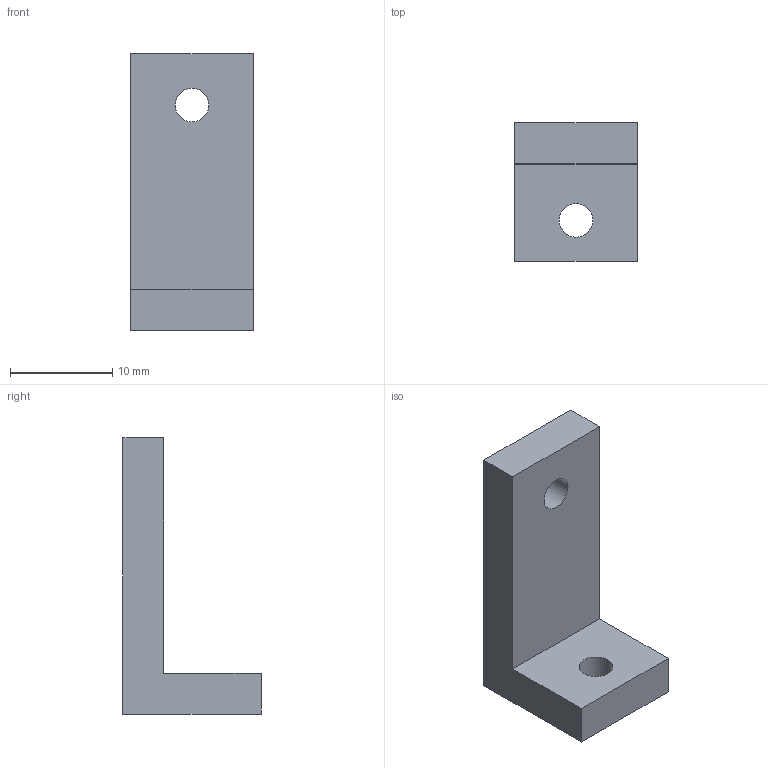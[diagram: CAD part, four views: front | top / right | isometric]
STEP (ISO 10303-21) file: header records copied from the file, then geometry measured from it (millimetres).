
FILE_DESCRIPTION(('Open CASCADE Model'),'2;1');
FILE_NAME('Open CASCADE Shape Model','2026-11-24T19:57:39',('Author'),( 'Open CASCADE'),'Open CASCADE STEP processor 7.8','Open CASCADE 7.8' ,'Unknown');
FILE_SCHEMA(('AUTOMOTIVE_DESIGN { 1 0 10303 214 1 1 1 1 }'));
Length unit declared in the file: millimetre
Products named in the file (1): Open CASCADE STEP translator 7.8 49
Bounding box: 12 x 13.5 x 27 mm (x, y, z)
Volume: 1683.6 mm3; surface area: 1312.7 mm2
Topology: 1 solids, 1 shells, 10 faces, 24 edges, 16 vertices
Faces by surface type: plane 8, cylinder 2
Full cylindrical faces by diameter (mm): 3.3 x2
Entity records: 620 total; most frequent: CARTESIAN_POINT 101, DIRECTION 96, LINE 62, VECTOR 62, ORIENTED_EDGE 48, PCURVE 48, DEFINITIONAL_REPRESENTATION 48, EDGE_CURVE 24
